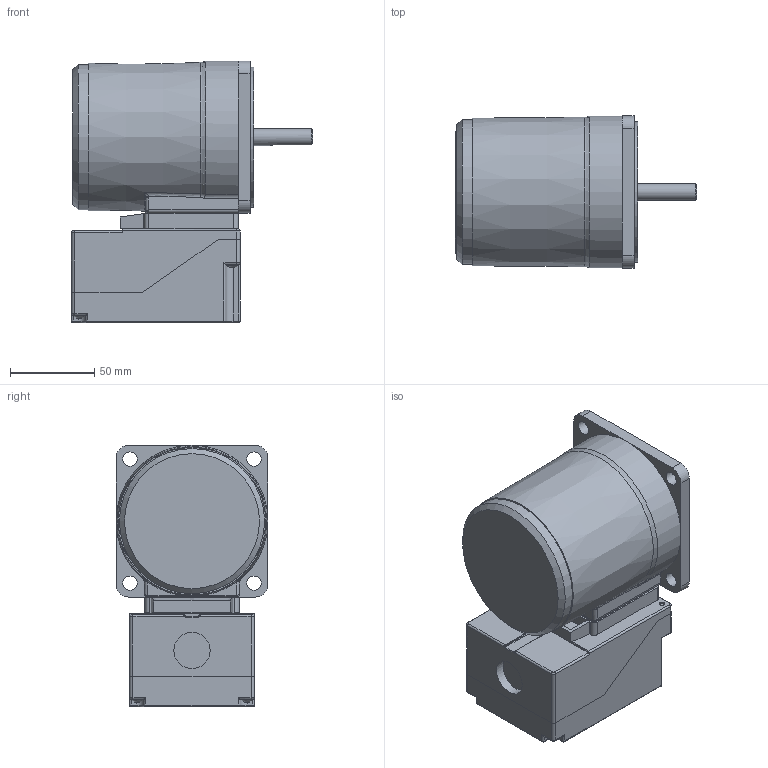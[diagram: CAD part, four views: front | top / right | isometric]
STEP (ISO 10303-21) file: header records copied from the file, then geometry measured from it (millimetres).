
FILE_DESCRIPTION(/* description */ (''),/* implementation_level */ '2;1');
FILE_NAME(/* name */ 'E:\도면작업\2016\0704) 미주향 SG 도면\3D MOTOR\TERMINAL BOX TYPE\INDUCTION TERMINAL BOX\SG9I40K_-T2.stp',/* time_stamp */ '2017-01-23T18:36:09+09:00',/* author */ ('jy-jung'),/* organization */ (''),/* preprocessor_version */ 'ST-DEVELOPER v15.6',/* originating_system */ 'Autodesk Inventor 2015',/* authorisation */ '');
FILE_SCHEMA (('AUTOMOTIVE_DESIGN { 1 0 10303 214 3 1 1 }'));
Length unit declared in the file: millimetre
Products named in the file (1): 부품1
Bounding box: 142.9 x 90 x 155 mm (x, y, z)
Volume: 789674.7 mm3; surface area: 130510.2 mm2
Topology: 1 solids, 5 shells, 845 faces, 2247 edges, 1434 vertices
Faces by surface type: plane 440, cylinder 292, bspline 51, torus 30, cone 20, sphere 12
Full cylindrical faces by diameter (mm): 2.5 x4, 3 x4, 3.2 x3, 3.4 x1, 4.2 x1, 4.5 x8, 5.5 x8, 6.9 x4, 8.5 x4, 10 x1, 21.5 x1, 40 x1, 83 x1, 86 x1
Entity records: 28284 total; most frequent: CARTESIAN_POINT 6753, DIRECTION 4277, ORIENTED_EDGE 4264, EDGE_CURVE 2132, AXIS2_PLACEMENT_3D 1504, VERTEX_POINT 1416, LINE 1269, VECTOR 1269
